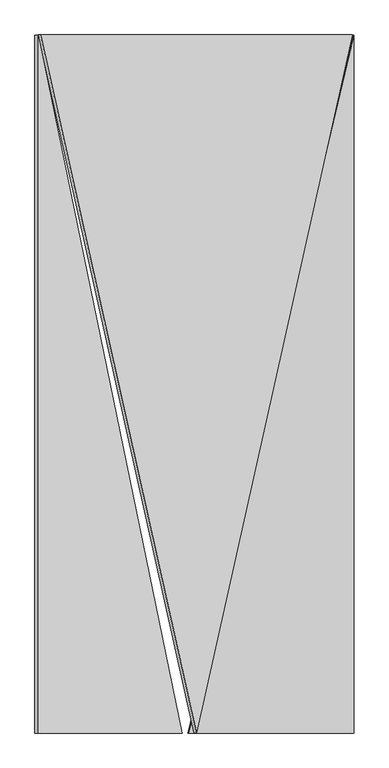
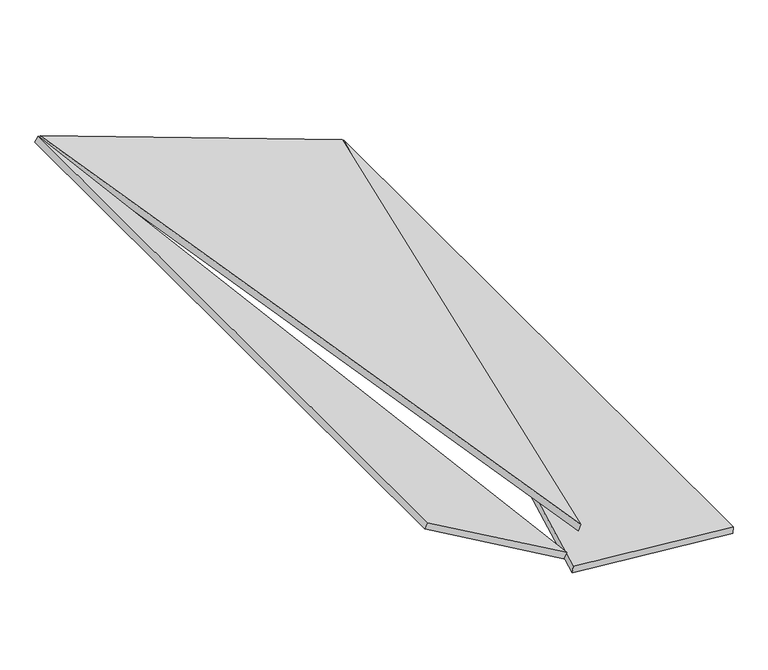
"""IFC4 building model written with IfcOpenShell, lengths in millimetres: proxy geometry, panel sufitowy 6 : panel sufitowy 6."""

from ifc_helpers import new_model, si_unit, frame, origin, place, context, project, spatial, polyline, outline, extrude, source, transform, mapped, element, save


def generic_models_e6cef362(model_context):
    return source(origin(), model_context, "Body", "SweptSolid", [
        extrude(outline(polyline([(-900.9098917, 1e-07), (1235.4098448, 0.0), (1006.1909889, -962.7191946), (-900.9098917, 1e-07)])), frame((511.5037401, -1457.4151922, 997.2071053), z_axis=(0.34202014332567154, 0.0, 0.9396926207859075), x_axis=(-0.2176521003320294, 0.9728062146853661, 0.07921888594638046)), (0.0, 0.0, 1.0), 20.0),
        extrude(outline(polyline([(-127.5, 0.0), (-622.4999999, 0.0), (-127.5, 2079.0), (-127.5, 0.0)])), frame((1308.8855864, -2335.0, 742.101106), z_axis=(0.08715574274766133, 0.0, 0.9961946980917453), x_axis=(0.9961946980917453, 0.0, -0.08715574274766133)), (0.0, 0.0, 1.0), 20.0),
        extrude(outline(polyline([(-127.4999999, 0.0), (-127.4999999, -2079.0), (-622.5, 0.0), (-127.4999999, 0.0)])), frame((122.3629765, -2335.0, 1162.4038079), z_axis=(0.5000000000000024, 0.0, 0.8660254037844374), x_axis=(-0.8660254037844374, 0.0, 0.5000000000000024)), (0.0, 0.0, 1.0), 20.0),
    ])


if __name__ == "__main__":
    model = new_model("IFC4")
    model_context = context("Model", 3, world=origin())
    ifc_project = project(units=[si_unit("LENGTHUNIT", "METRE", prefix="MILLI")], contexts=[model_context])
    site = spatial("IfcSite", under=ifc_project)
    building = spatial("IfcBuilding", under=site)
    placement = place(None, origin())
    generic_models_shape = generic_models_e6cef362(model_context)
    element("IfcBuildingElementProxy", 1, Name="panel sufitowy 6 : panel sufitowy 6", ObjectType="panel sufitowy 6 : panel sufitowy 6", at=placement, inside=building, context=model_context, shape_type="MappedRepresentation", body=[
        mapped(generic_models_shape, transform((0.0, 0.0, 0.0), x_axis=(1.0, 0.0, 0.0), y_axis=(0.0, 1.0, 0.0), z_axis=(0.0, 0.0, 1.0))),
    ])
    save(model, "model.ifc")
